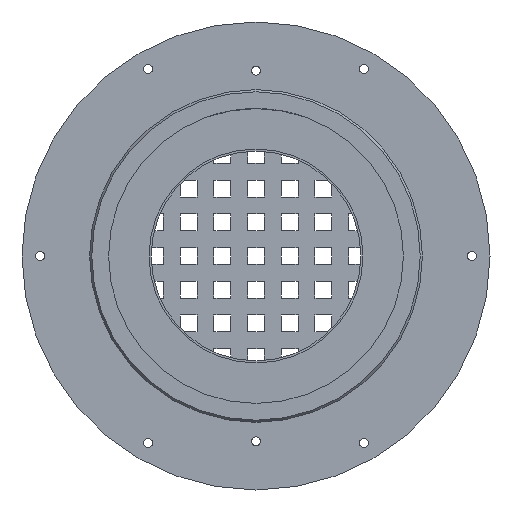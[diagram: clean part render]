
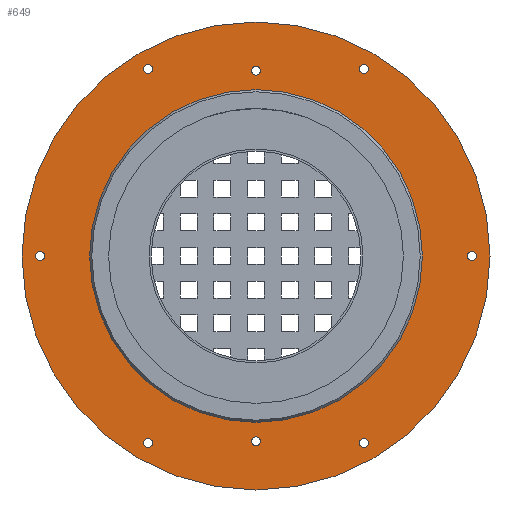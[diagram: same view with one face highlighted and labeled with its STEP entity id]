
A CAD part, front view. The second image highlights one B-rep face of the part: STEP entity #649.
In plain terms, the highlighted planar face has unit normal (0, -1, 0).
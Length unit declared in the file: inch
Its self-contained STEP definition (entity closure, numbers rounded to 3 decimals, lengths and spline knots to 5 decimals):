
#212=CARTESIAN_POINT('',(4.12008,0.81575,0.));
#213=VERTEX_POINT('',#212);
#214=CARTESIAN_POINT('',(4.03543,0.81575,0.0));
#215=DIRECTION('',(0.0,1.0,0.0));
#216=DIRECTION('',(-1.0,0.0,0.0));
#217=AXIS2_PLACEMENT_3D('',#214,#215,#216);
#218=CIRCLE('',#217,0.08465);
#219=EDGE_CURVE('',#213,#213,#218,.T.);
#261=CARTESIAN_POINT('',(2.10236,0.81575,3.49478));
#262=VERTEX_POINT('',#261);
#263=CARTESIAN_POINT('',(2.01772,0.81575,3.49478));
#264=DIRECTION('',(0.0,1.0,0.0));
#265=DIRECTION('',(-1.0,0.0,0.0));
#266=AXIS2_PLACEMENT_3D('',#263,#264,#265);
#267=CIRCLE('',#266,0.08465);
#268=EDGE_CURVE('',#262,#262,#267,.T.);
#310=CARTESIAN_POINT('',(0.08465,0.81575,3.46457));
#311=VERTEX_POINT('',#310);
#312=CARTESIAN_POINT('',(0.0,0.81575,3.46457));
#313=DIRECTION('',(0.0,1.0,0.0));
#314=DIRECTION('',(-1.0,0.0,0.0));
#315=AXIS2_PLACEMENT_3D('',#312,#313,#314);
#316=CIRCLE('',#315,0.08465);
#317=EDGE_CURVE('',#311,#311,#316,.T.);
#359=CARTESIAN_POINT('',(-1.93307,0.81575,3.49478));
#360=VERTEX_POINT('',#359);
#361=CARTESIAN_POINT('',(-2.01772,0.81575,3.49478));
#362=DIRECTION('',(0.0,1.0,0.0));
#363=DIRECTION('',(-1.0,0.0,0.0));
#364=AXIS2_PLACEMENT_3D('',#361,#362,#363);
#365=CIRCLE('',#364,0.08465);
#366=EDGE_CURVE('',#360,#360,#365,.T.);
#408=CARTESIAN_POINT('',(0.08465,0.81575,-3.46457));
#409=VERTEX_POINT('',#408);
#410=CARTESIAN_POINT('',(0.0,0.81575,-3.46457));
#411=DIRECTION('',(0.0,1.0,0.0));
#412=DIRECTION('',(-1.0,0.0,0.0));
#413=AXIS2_PLACEMENT_3D('',#410,#411,#412);
#414=CIRCLE('',#413,0.08465);
#415=EDGE_CURVE('',#409,#409,#414,.T.);
#457=CARTESIAN_POINT('',(-1.93307,0.81575,-3.49478));
#458=VERTEX_POINT('',#457);
#459=CARTESIAN_POINT('',(-2.01772,0.81575,-3.49478));
#460=DIRECTION('',(0.0,1.0,0.0));
#461=DIRECTION('',(-1.0,0.0,0.0));
#462=AXIS2_PLACEMENT_3D('',#459,#460,#461);
#463=CIRCLE('',#462,0.08465);
#464=EDGE_CURVE('',#458,#458,#463,.T.);
#506=CARTESIAN_POINT('',(-3.95079,0.81575,0.));
#507=VERTEX_POINT('',#506);
#508=CARTESIAN_POINT('',(-4.03543,0.81575,0.0));
#509=DIRECTION('',(0.0,1.0,0.0));
#510=DIRECTION('',(-1.0,0.0,0.0));
#511=AXIS2_PLACEMENT_3D('',#508,#509,#510);
#512=CIRCLE('',#511,0.08465);
#513=EDGE_CURVE('',#507,#507,#512,.T.);
#555=CARTESIAN_POINT('',(2.10236,0.81575,-3.49478));
#556=VERTEX_POINT('',#555);
#557=CARTESIAN_POINT('',(2.01772,0.81575,-3.49478));
#558=DIRECTION('',(0.0,1.0,0.0));
#559=DIRECTION('',(-1.0,0.0,0.0));
#560=AXIS2_PLACEMENT_3D('',#557,#558,#559);
#561=CIRCLE('',#560,0.08465);
#562=EDGE_CURVE('',#556,#556,#561,.T.);
#583=CARTESIAN_POINT('',(4.375,0.81575,0.0));
#584=VERTEX_POINT('',#583);
#585=CARTESIAN_POINT('',(0.0,0.81575,0.0));
#586=DIRECTION('',(0.0,-1.0,0.0));
#587=DIRECTION('',(1.0,0.0,0.0));
#588=AXIS2_PLACEMENT_3D('',#585,#586,#587);
#589=CIRCLE('',#588,4.375);
#590=EDGE_CURVE('',#584,#584,#589,.T.);
#606=CARTESIAN_POINT('',(3.74301,0.81575,0.0));
#607=DIRECTION('',(0.0,-1.0,0.0));
#608=DIRECTION('',(0.0,0.0,-1.0));
#609=AXIS2_PLACEMENT_3D('',#606,#607,#608);
#610=PLANE('',#609);
#611=ORIENTED_EDGE('',*,*,#590,.T.);
#612=EDGE_LOOP('',(#611));
#613=FACE_OUTER_BOUND('',#612,.T.);
#614=ORIENTED_EDGE('',*,*,#219,.T.);
#615=EDGE_LOOP('',(#614));
#616=FACE_BOUND('',#615,.T.);
#617=ORIENTED_EDGE('',*,*,#268,.T.);
#618=EDGE_LOOP('',(#617));
#619=FACE_BOUND('',#618,.T.);
#620=ORIENTED_EDGE('',*,*,#317,.T.);
#621=EDGE_LOOP('',(#620));
#622=FACE_BOUND('',#621,.T.);
#623=ORIENTED_EDGE('',*,*,#366,.T.);
#624=EDGE_LOOP('',(#623));
#625=FACE_BOUND('',#624,.T.);
#626=ORIENTED_EDGE('',*,*,#415,.T.);
#627=EDGE_LOOP('',(#626));
#628=FACE_BOUND('',#627,.T.);
#629=ORIENTED_EDGE('',*,*,#464,.T.);
#630=EDGE_LOOP('',(#629));
#631=FACE_BOUND('',#630,.T.);
#632=ORIENTED_EDGE('',*,*,#513,.T.);
#633=EDGE_LOOP('',(#632));
#634=FACE_BOUND('',#633,.T.);
#635=ORIENTED_EDGE('',*,*,#562,.T.);
#636=EDGE_LOOP('',(#635));
#637=FACE_BOUND('',#636,.T.);
#638=CARTESIAN_POINT('',(3.11103,0.81575,0.0));
#639=VERTEX_POINT('',#638);
#640=CARTESIAN_POINT('',(0.0,0.81575,0.0));
#641=DIRECTION('',(0.0,-1.0,0.0));
#642=DIRECTION('',(1.0,0.0,0.0));
#643=AXIS2_PLACEMENT_3D('',#640,#641,#642);
#644=CIRCLE('',#643,3.11103);
#645=EDGE_CURVE('',#639,#639,#644,.T.);
#646=ORIENTED_EDGE('',*,*,#645,.F.);
#647=EDGE_LOOP('',(#646));
#648=FACE_BOUND('',#647,.T.);
#649=ADVANCED_FACE('',(#613,#616,#619,#622,#625,#628,#631,#634,#637,#648),#610,.T.);
